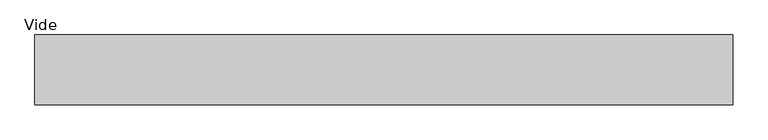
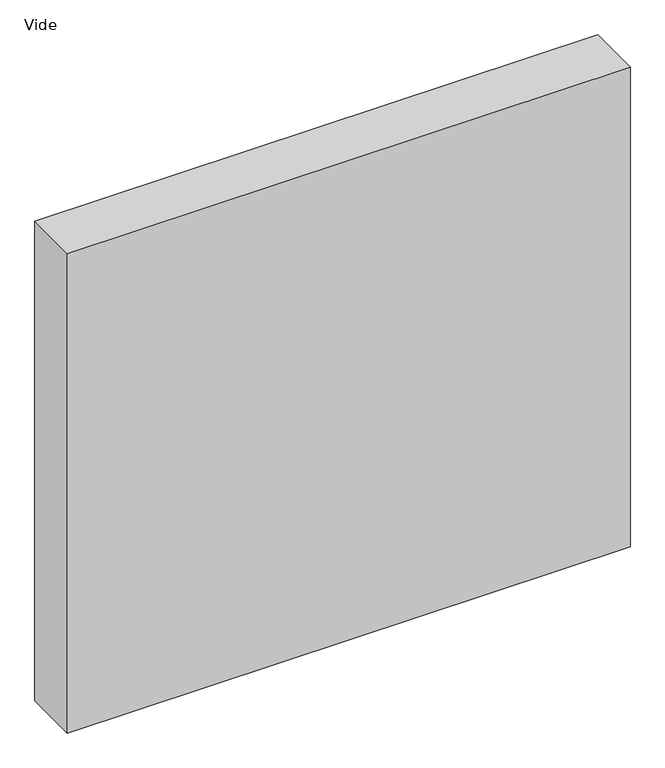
"""IFC4 building model written with IfcOpenShell, lengths in millimetres: plate geometry, Panneau système vide : Vide."""

from ifc_helpers import new_model, si_unit, origin, origin_with_axes, place, context, project, spatial, polyline, outline, extrude, source, transform, mapped, element, save


def vide_33e1f8f7(model_context):
    return source(origin(), model_context, "Body", "SweptSolid", [
        extrude(outline(polyline([(500.0, 50.0), (-500.0, 50.0), (-500.0, 150.0), (500.0, 150.0), (500.0, 50.0)])), origin_with_axes(), (0.0, 0.0, 1.0), 900.0),
    ])


if __name__ == "__main__":
    model = new_model("IFC4")
    model_context = context("Model", 3, world=origin())
    ifc_project = project(units=[si_unit("LENGTHUNIT", "METRE", prefix="MILLI")], contexts=[model_context])
    site = spatial("IfcSite", under=ifc_project)
    building = spatial("IfcBuilding", under=site)
    placement = place(None, origin())
    vide_shape = vide_33e1f8f7(model_context)
    element("IfcPlate", 1, ObjectType="Panneau système vide : Vide", at=placement, inside=building, context=model_context, shape_type="MappedRepresentation", body=[
        mapped(vide_shape, transform((0.0, 0.0, 0.0), x_axis=(1.0, 0.0, 0.0), y_axis=(0.0, 1.0, 0.0), z_axis=(0.0, 0.0, 1.0))),
    ])
    save(model, "model.ifc")
